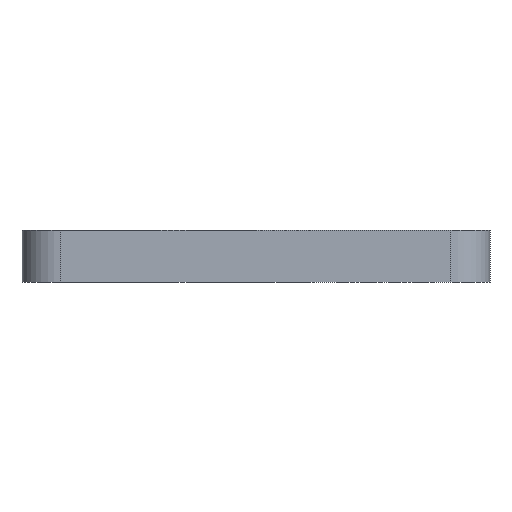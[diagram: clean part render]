
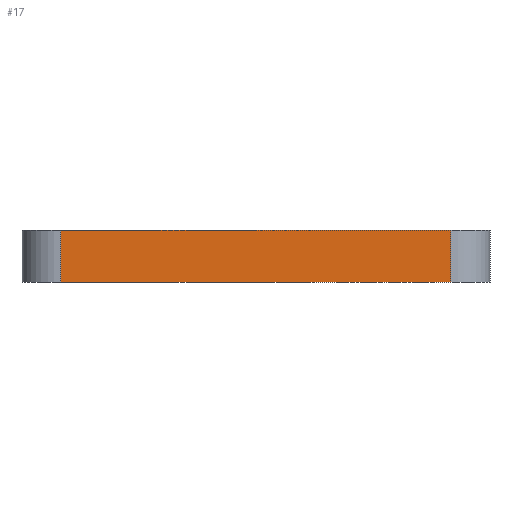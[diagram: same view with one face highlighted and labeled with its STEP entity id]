
A CAD part, left-side view. The second image highlights one B-rep face of the part: STEP entity #17.
In plain terms, the highlighted planar face has unit normal (-1, 0, 0).
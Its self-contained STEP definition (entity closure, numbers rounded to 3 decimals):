
#17 = ADVANCED_FACE('',(#18),#32,.F.);
#18 = FACE_BOUND('',#19,.F.);
#19 = EDGE_LOOP('',(#20,#55,#83,#111));
#20 = ORIENTED_EDGE('',*,*,#21,.F.);
#21 = EDGE_CURVE('',#22,#24,#26,.T.);
#22 = VERTEX_POINT('',#23);
#23 = CARTESIAN_POINT('',(127.,63.,16.));
#24 = VERTEX_POINT('',#25);
#25 = CARTESIAN_POINT('',(127.,93.,16.));
#26 = SURFACE_CURVE('',#27,(#31,#43),.PCURVE_S1.);
#27 = LINE('',#28,#29);
#28 = CARTESIAN_POINT('',(127.,60.,16.));
#29 = VECTOR('',#30,1.);
#30 = DIRECTION('',(0.,1.,0.));
#31 = PCURVE('',#32,#37);
#32 = PLANE('',#33);
#33 = AXIS2_PLACEMENT_3D('',#34,#35,#36);
#34 = CARTESIAN_POINT('',(127.,60.,12.));
#35 = DIRECTION('',(1.,0.,0.));
#36 = DIRECTION('',(0.,0.,1.));
#37 = DEFINITIONAL_REPRESENTATION('',(#38),#42);
#38 = LINE('',#39,#40);
#39 = CARTESIAN_POINT('',(4.,0.));
#40 = VECTOR('',#41,1.);
#41 = DIRECTION('',(0.,-1.));
#42 = ( GEOMETRIC_REPRESENTATION_CONTEXT(2) 
PARAMETRIC_REPRESENTATION_CONTEXT() REPRESENTATION_CONTEXT('2D SPACE',''
  ) );
#43 = PCURVE('',#44,#49);
#44 = PLANE('',#45);
#45 = AXIS2_PLACEMENT_3D('',#46,#47,#48);
#46 = CARTESIAN_POINT('',(127.,60.,16.));
#47 = DIRECTION('',(0.,0.,1.));
#48 = DIRECTION('',(1.,0.,0.));
#49 = DEFINITIONAL_REPRESENTATION('',(#50),#54);
#50 = LINE('',#51,#52);
#51 = CARTESIAN_POINT('',(0.,0.));
#52 = VECTOR('',#53,1.);
#53 = DIRECTION('',(0.,1.));
#54 = ( GEOMETRIC_REPRESENTATION_CONTEXT(2) 
PARAMETRIC_REPRESENTATION_CONTEXT() REPRESENTATION_CONTEXT('2D SPACE',''
  ) );
#55 = ORIENTED_EDGE('',*,*,#56,.F.);
#56 = EDGE_CURVE('',#57,#22,#59,.T.);
#57 = VERTEX_POINT('',#58);
#58 = CARTESIAN_POINT('',(127.,63.,12.));
#59 = SURFACE_CURVE('',#60,(#64,#71),.PCURVE_S1.);
#60 = LINE('',#61,#62);
#61 = CARTESIAN_POINT('',(127.,63.,12.));
#62 = VECTOR('',#63,1.);
#63 = DIRECTION('',(0.,0.,1.));
#64 = PCURVE('',#32,#65);
#65 = DEFINITIONAL_REPRESENTATION('',(#66),#70);
#66 = LINE('',#67,#68);
#67 = CARTESIAN_POINT('',(0.,-3.));
#68 = VECTOR('',#69,1.);
#69 = DIRECTION('',(1.,0.));
#70 = ( GEOMETRIC_REPRESENTATION_CONTEXT(2) 
PARAMETRIC_REPRESENTATION_CONTEXT() REPRESENTATION_CONTEXT('2D SPACE',''
  ) );
#71 = PCURVE('',#72,#77);
#72 = CYLINDRICAL_SURFACE('',#73,3.);
#73 = AXIS2_PLACEMENT_3D('',#74,#75,#76);
#74 = CARTESIAN_POINT('',(130.,63.,12.));
#75 = DIRECTION('',(0.,0.,1.));
#76 = DIRECTION('',(-1.,-0.,0.));
#77 = DEFINITIONAL_REPRESENTATION('',(#78),#82);
#78 = LINE('',#79,#80);
#79 = CARTESIAN_POINT('',(0.,0.));
#80 = VECTOR('',#81,1.);
#81 = DIRECTION('',(0.,1.));
#82 = ( GEOMETRIC_REPRESENTATION_CONTEXT(2) 
PARAMETRIC_REPRESENTATION_CONTEXT() REPRESENTATION_CONTEXT('2D SPACE',''
  ) );
#83 = ORIENTED_EDGE('',*,*,#84,.T.);
#84 = EDGE_CURVE('',#57,#85,#87,.T.);
#85 = VERTEX_POINT('',#86);
#86 = CARTESIAN_POINT('',(127.,93.,12.));
#87 = SURFACE_CURVE('',#88,(#92,#99),.PCURVE_S1.);
#88 = LINE('',#89,#90);
#89 = CARTESIAN_POINT('',(127.,60.,12.));
#90 = VECTOR('',#91,1.);
#91 = DIRECTION('',(0.,1.,0.));
#92 = PCURVE('',#32,#93);
#93 = DEFINITIONAL_REPRESENTATION('',(#94),#98);
#94 = LINE('',#95,#96);
#95 = CARTESIAN_POINT('',(0.,0.));
#96 = VECTOR('',#97,1.);
#97 = DIRECTION('',(0.,-1.));
#98 = ( GEOMETRIC_REPRESENTATION_CONTEXT(2) 
PARAMETRIC_REPRESENTATION_CONTEXT() REPRESENTATION_CONTEXT('2D SPACE',''
  ) );
#99 = PCURVE('',#100,#105);
#100 = PLANE('',#101);
#101 = AXIS2_PLACEMENT_3D('',#102,#103,#104);
#102 = CARTESIAN_POINT('',(127.,60.,12.));
#103 = DIRECTION('',(0.,0.,1.));
#104 = DIRECTION('',(1.,0.,0.));
#105 = DEFINITIONAL_REPRESENTATION('',(#106),#110);
#106 = LINE('',#107,#108);
#107 = CARTESIAN_POINT('',(0.,0.));
#108 = VECTOR('',#109,1.);
#109 = DIRECTION('',(0.,1.));
#110 = ( GEOMETRIC_REPRESENTATION_CONTEXT(2) 
PARAMETRIC_REPRESENTATION_CONTEXT() REPRESENTATION_CONTEXT('2D SPACE',''
  ) );
#111 = ORIENTED_EDGE('',*,*,#112,.T.);
#112 = EDGE_CURVE('',#85,#24,#113,.T.);
#113 = SURFACE_CURVE('',#114,(#118,#125),.PCURVE_S1.);
#114 = LINE('',#115,#116);
#115 = CARTESIAN_POINT('',(127.,93.,12.));
#116 = VECTOR('',#117,1.);
#117 = DIRECTION('',(0.,0.,1.));
#118 = PCURVE('',#32,#119);
#119 = DEFINITIONAL_REPRESENTATION('',(#120),#124);
#120 = LINE('',#121,#122);
#121 = CARTESIAN_POINT('',(0.,-33.));
#122 = VECTOR('',#123,1.);
#123 = DIRECTION('',(1.,0.));
#124 = ( GEOMETRIC_REPRESENTATION_CONTEXT(2) 
PARAMETRIC_REPRESENTATION_CONTEXT() REPRESENTATION_CONTEXT('2D SPACE',''
  ) );
#125 = PCURVE('',#126,#131);
#126 = CYLINDRICAL_SURFACE('',#127,3.);
#127 = AXIS2_PLACEMENT_3D('',#128,#129,#130);
#128 = CARTESIAN_POINT('',(130.,93.,12.));
#129 = DIRECTION('',(0.,0.,1.));
#130 = DIRECTION('',(-1.,-0.,0.));
#131 = DEFINITIONAL_REPRESENTATION('',(#132),#136);
#132 = LINE('',#133,#134);
#133 = CARTESIAN_POINT('',(-0.,0.));
#134 = VECTOR('',#135,1.);
#135 = DIRECTION('',(-0.,1.));
#136 = ( GEOMETRIC_REPRESENTATION_CONTEXT(2) 
PARAMETRIC_REPRESENTATION_CONTEXT() REPRESENTATION_CONTEXT('2D SPACE',''
  ) );
